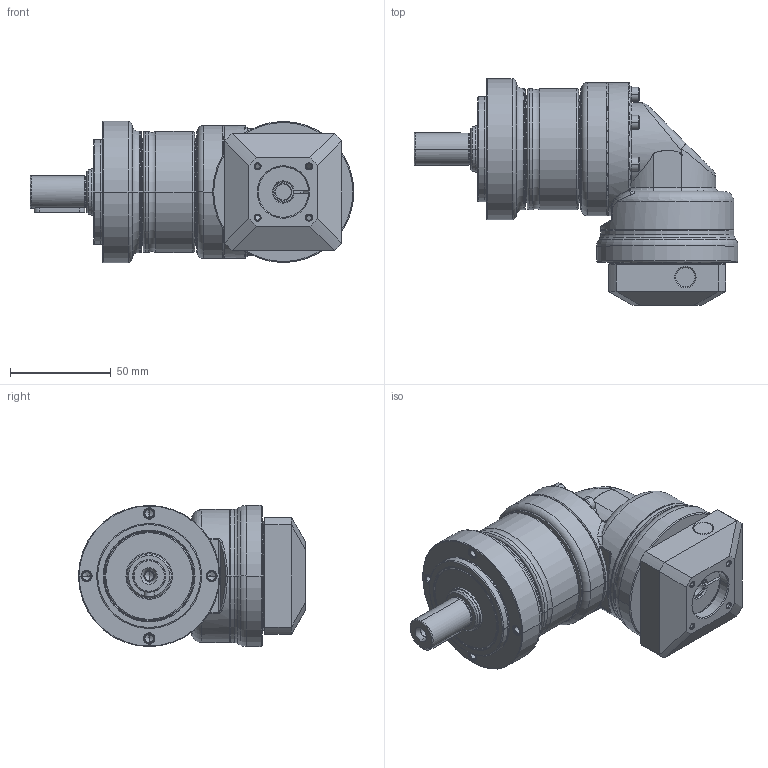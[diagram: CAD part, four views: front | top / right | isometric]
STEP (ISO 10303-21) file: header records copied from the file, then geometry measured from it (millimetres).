
FILE_DESCRIPTION((''),'2;1');
FILE_NAME('PE2R-070_1ST_8-P0411100101_ASM','2016-05-06T',('d00435'),(''),'PRO/ENGINEER BY PARAMETRIC TECHNOLOGY CORPORATION, 2008410','PRO/ENGINEER BY PARAMETRIC TECHNOLOGY CORPORATION, 2008410','');
FILE_SCHEMA(('CONFIG_CONTROL_DESIGN'));
Length unit declared in the file: millimetre
Products named in the file (12): P1323210001; P0250200001; P0350201001; P1349200001; P1017200001; P0713200001; P0503100005; P1350200001; P0411100101; P1702300001; 2111B104020; PE2R-070_1ST_8-P0411100101_ASM
Assembly tree (16 placements, depth 2):
  PE2R-070_1ST_8-P0411100101_ASM
    P1323210001
    P0250200001
    P0350201001
    P1349200001
    P1017200001
    P0713200001
    P0503100005
    P1350200001
    P0411100101
    P1702300001
    2111B104020  x6
Bounding box: 160.5 x 112.5 x 70 mm (x, y, z)
Volume: 352885 mm3; surface area: 109119.8 mm2
Topology: 16 solids, 32 shells, 847 faces, 1893 edges, 1121 vertices
Faces by surface type: cylinder 279, cone 218, plane 210, torus 108, bspline 32
Entity records: 25209 total; most frequent: CARTESIAN_POINT 9536, DIRECTION 3524, ORIENTED_EDGE 2970, EDGE_CURVE 1517, AXIS2_PLACEMENT_3D 1505, VERTEX_POINT 921, CIRCLE 817, EDGE_LOOP 784
